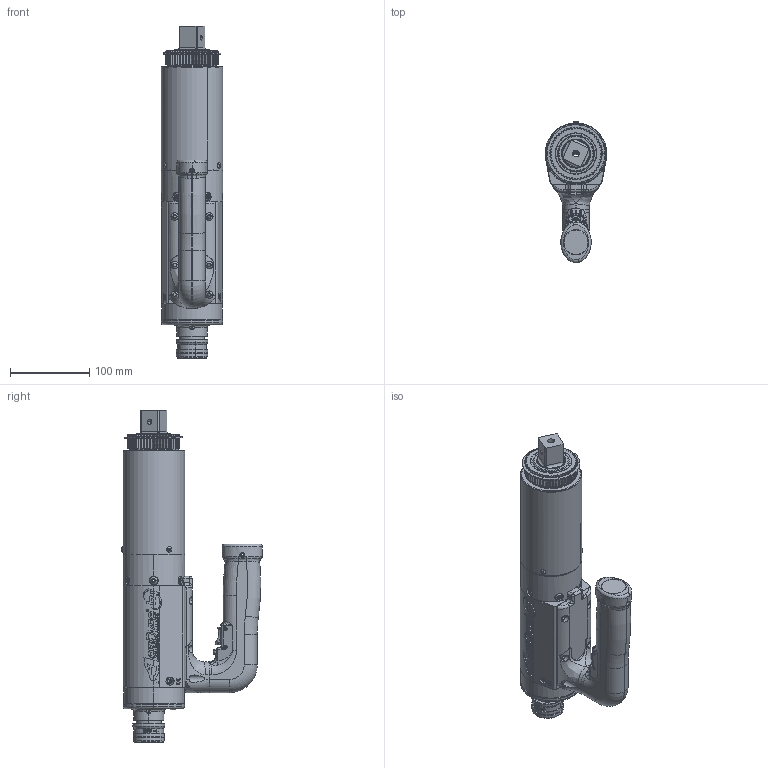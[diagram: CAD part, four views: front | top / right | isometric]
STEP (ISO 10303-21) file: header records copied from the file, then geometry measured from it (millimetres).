
FILE_DESCRIPTION (( 'STEP AP214' ), '1' );
FILE_NAME ('AEJ4B773000B.STEP', '2016-04-05T20:22:43', ( 'AIMCO' ), ( '' ), 'SwSTEP 2.0', 'SolidWorks 2016', '' );
FILE_SCHEMA (( 'AUTOMOTIVE_DESIGN' ));
Length unit declared in the file: inch
Products named in the file (1): AEJ4B773000B
Bounding box: 77.47 x 177.48 x 418.14 mm (x, y, z)
Surface area: 218853.4 mm2 (no closed solid volume)
Topology: 0 solids, 81 shells, 1450 faces, 5731 edges, 4140 vertices
Faces by surface type: cylinder 531, plane 366, bspline 267, torus 157, cone 121, sphere 8
Entity records: 145547 total; most frequent: CARTESIAN_POINT 83928, ORIENTED_EDGE 8800, DIRECTION 7746, EDGE_CURVE 5717, VERTEX_POINT 4138, AXIS2_PLACEMENT_3D 2907, LINE 1932, VECTOR 1932
